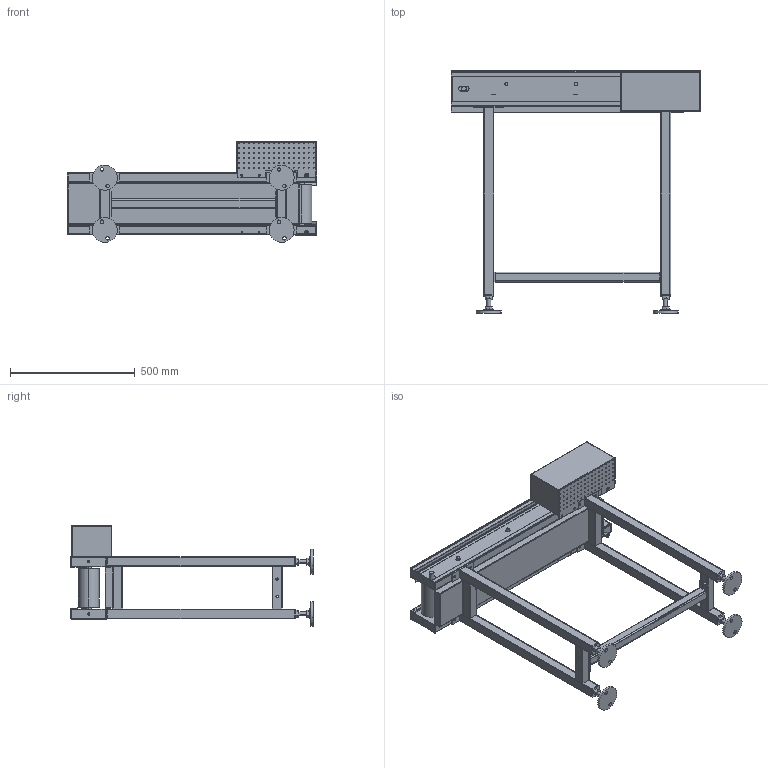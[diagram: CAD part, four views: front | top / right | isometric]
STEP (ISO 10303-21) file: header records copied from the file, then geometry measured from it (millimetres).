
FILE_DESCRIPTION(/* description */ (''),/* implementation_level */ '2;1');
FILE_NAME(/* name */ 'beltconveyor_a139_w150_l1000.stp',/* time_stamp */ '2025-01-16T21:03:57+08:00',/* author */ (''),/* organization */ (''),/* preprocessor_version */ 'ST-DEVELOPER v16.7',/* originating_system */ 'SIEMENS PLM Software NX 12.0',/* authorisation */ '');
FILE_SCHEMA (('AUTOMOTIVE_DESIGN { 1 0 10303 214 3 1 1 1 }'));
Products named in the file (20): XY2018-1126-A01-侧板A; XY2018-1126-A00-PE板; UBF204-方型轴承座; XY2018-1126-A09-电机座; XY2018-1126-A02-Φ76主动滚筒A; 镜向XY2018-1126-A01-侧板A; XY2018-1126-D06-无动力滚筒; XY2018-1126-A04-支撑腿_默认_按加工_; XY2018-1126-A08-电机罩子; XY2018-1126-A00-L2019XW155XT10网带; 镜向XY2018-1126-PE板; XY2018-1126-A11-封板1; XY2018-1126-A05-连杆_默认_按加工_; XY2018-1126-A03-Φ76从动滚筒A; XY2018-1126-调速电机-90YT120GV20-90GK20R
C; XY2018-1126-A10-电机座垫环; XY2018-1126-A06-接尘盘; XY2018-1126-A07-护栏; M16x100金属调整脚蹄带地脚孔(
高度差70); beltconveyor_a139_w150_l1000
Assembly tree (29 placements, depth 2):
  beltconveyor_a139_w150_l1000
    M16x100金属调整脚蹄带地脚孔(
高度差70)  x4
    XY2018-1126-A07-护栏  x2
    XY2018-1126-A06-接尘盘
    XY2018-1126-A10-电机座垫环  x2
    XY2018-1126-调速电机-90YT120GV20-90GK20R
C
    XY2018-1126-A03-Φ76从动滚筒A
    XY2018-1126-A05-连杆_默认_按加工_
    XY2018-1126-A11-封板1  x2
    镜向XY2018-1126-PE板
    XY2018-1126-A00-L2019XW155XT10网带
    XY2018-1126-A08-电机罩子
    XY2018-1126-A04-支撑腿_默认_按加工_  x2
    XY2018-1126-D06-无动力滚筒  x3
    镜向XY2018-1126-A01-侧板A
    XY2018-1126-A02-Φ76主动滚筒A
    XY2018-1126-A09-电机座
    UBF204-方型轴承座  x2
    XY2018-1126-A00-PE板
    XY2018-1126-A01-侧板A
Bounding box: 1000 x 975 x 404.98 mm (x, y, z)
Volume: 8597075.3 mm3; surface area: 5025466 mm2
Topology: 90 solids, 100 shells, 5669 faces, 15120 edges, 9699 vertices
Faces by surface type: plane 3025, cylinder 1409, extrusion 369, bspline 345, torus 308, cone 114, sphere 99
Entity records: 199453 total; most frequent: CARTESIAN_POINT 54802, ORIENTED_EDGE 27958, DIRECTION 24031, EDGE_CURVE 13979, VERTEX_POINT 9027, VECTOR 9021, LINE 8652, AXIS2_PLACEMENT_3D 7505
